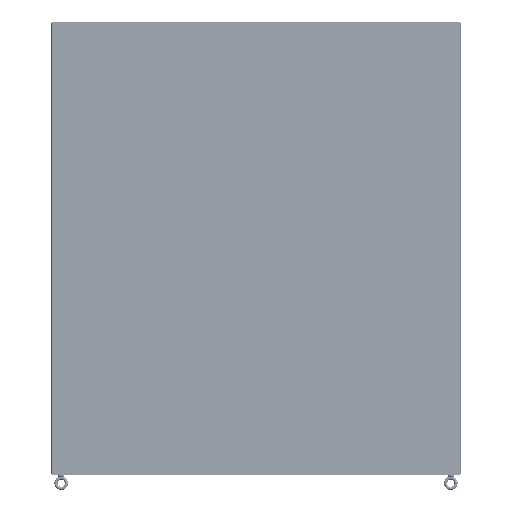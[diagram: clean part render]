
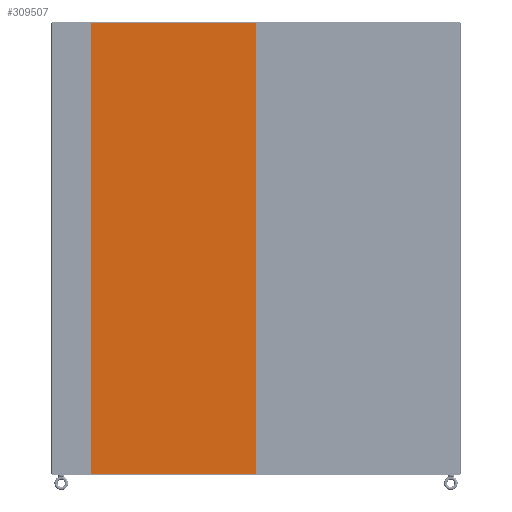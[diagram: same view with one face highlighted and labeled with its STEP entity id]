
A CAD part, left-side view. The second image highlights one B-rep face of the part: STEP entity #309507.
In plain terms, the highlighted planar face has unit normal (-1, 0, 0) as drawn and (0, 0, -1) by its records, which use the part's own axes.
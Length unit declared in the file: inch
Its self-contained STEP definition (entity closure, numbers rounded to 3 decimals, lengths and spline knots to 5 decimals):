
#309201=CARTESIAN_POINT('',(-15.6475,42.856,-0.104));
#309202=DIRECTION('',(0.,0.,-1.));
#309203=DIRECTION('',(-1.,0.,0.));
#309204=AXIS2_PLACEMENT_3D('',#309201,#309202,#309203);
#309209=DIRECTION('',(0.,-1.,0.));
#309210=VECTOR('',#309209,85.712);
#309211=CARTESIAN_POINT('',(-15.6875,42.856,-0.104));
#309212=LINE('',#309211,#309210);
#309216=CARTESIAN_POINT('',(-15.6475,-42.856,-0.104));
#309217=DIRECTION('',(0.,0.,-1.));
#309218=DIRECTION('',(0.,-1.,0.));
#309219=AXIS2_PLACEMENT_3D('',#309216,#309217,#309218);
#309224=DIRECTION('',(1.,0.,0.));
#309225=VECTOR('',#309224,31.295);
#309226=CARTESIAN_POINT('',(-15.6475,-42.896,-0.104));
#309227=LINE('',#309226,#309225);
#309231=CARTESIAN_POINT('',(15.6475,-42.856,-0.104));
#309232=DIRECTION('',(0.,0.,-1.));
#309233=DIRECTION('',(1.,0.,0.));
#309234=AXIS2_PLACEMENT_3D('',#309231,#309232,#309233);
#309239=DIRECTION('',(0.,1.,0.));
#309240=VECTOR('',#309239,85.712);
#309241=CARTESIAN_POINT('',(15.6875,-42.856,-0.104));
#309242=LINE('',#309241,#309240);
#309246=CARTESIAN_POINT('',(15.6475,42.856,-0.104));
#309247=DIRECTION('',(0.,0.,-1.));
#309248=DIRECTION('',(0.,1.,0.));
#309249=AXIS2_PLACEMENT_3D('',#309246,#309247,#309248);
#309254=DIRECTION('',(-1.,0.,0.));
#309255=VECTOR('',#309254,31.295);
#309256=CARTESIAN_POINT('',(15.6475,42.896,-0.104));
#309257=LINE('',#309256,#309255);
#309265=CARTESIAN_POINT('',(-15.6875,42.856,-0.104));
#309266=VERTEX_POINT('',#309265);
#309267=CARTESIAN_POINT('',(-15.6475,42.896,-0.104));
#309268=VERTEX_POINT('',#309267);
#309273=CARTESIAN_POINT('',(-15.6475,-42.896,-0.104));
#309274=VERTEX_POINT('',#309273);
#309275=CARTESIAN_POINT('',(-15.6875,-42.856,-0.104));
#309276=VERTEX_POINT('',#309275);
#309281=CARTESIAN_POINT('',(15.6475,42.896,-0.104));
#309282=VERTEX_POINT('',#309281);
#309283=CARTESIAN_POINT('',(15.6475,-42.896,-0.104));
#309284=VERTEX_POINT('',#309283);
#309287=CARTESIAN_POINT('',(15.6875,42.856,-0.104));
#309288=VERTEX_POINT('',#309287);
#309291=CARTESIAN_POINT('',(15.6875,-42.856,-0.104));
#309292=VERTEX_POINT('',#309291);
#309492=CARTESIAN_POINT('',(0.,0.,-0.104));
#309493=DIRECTION('',(0.,0.,1.));
#309494=DIRECTION('',(1.,0.,0.));
#309495=AXIS2_PLACEMENT_3D('',#309492,#309493,#309494);
#309496=PLANE('',#309495);
#309497=ORIENTED_EDGE('',*,*,#309332,.F.);
#309498=ORIENTED_EDGE('',*,*,#309355,.T.);
#309499=ORIENTED_EDGE('',*,*,#309375,.F.);
#309500=ORIENTED_EDGE('',*,*,#309397,.T.);
#309501=ORIENTED_EDGE('',*,*,#309417,.F.);
#309502=ORIENTED_EDGE('',*,*,#309437,.T.);
#309503=ORIENTED_EDGE('',*,*,#309459,.F.);
#309504=ORIENTED_EDGE('',*,*,#309478,.T.);
#309505=EDGE_LOOP('',(#309497,#309498,#309499,#309500,#309501,#309502,#309503,
#309504));
#309506=FACE_OUTER_BOUND('',#309505,.F.);
#309205=CIRCLE('',#309204,0.04);
#309220=CIRCLE('',#309219,0.04);
#309235=CIRCLE('',#309234,0.04);
#309250=CIRCLE('',#309249,0.04);
#309332=EDGE_CURVE('',#309266,#309268,#309205,.T.);
#309355=EDGE_CURVE('',#309266,#309276,#309212,.T.);
#309375=EDGE_CURVE('',#309274,#309276,#309220,.T.);
#309397=EDGE_CURVE('',#309274,#309284,#309227,.T.);
#309417=EDGE_CURVE('',#309292,#309284,#309235,.T.);
#309437=EDGE_CURVE('',#309292,#309288,#309242,.T.);
#309459=EDGE_CURVE('',#309282,#309288,#309250,.T.);
#309478=EDGE_CURVE('',#309282,#309268,#309257,.T.);
#309507=ADVANCED_FACE('',(#309506),#309496,.F.);
